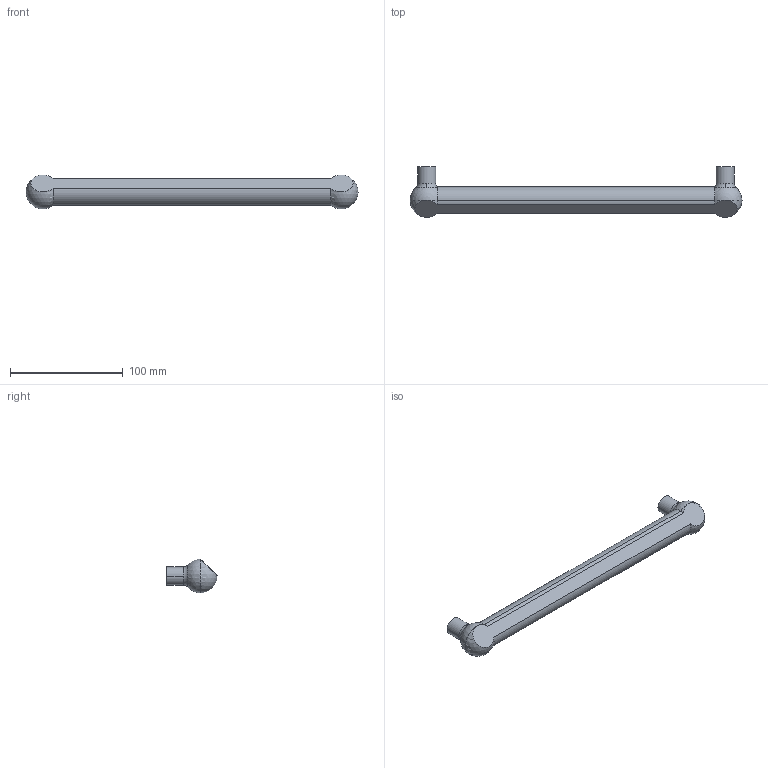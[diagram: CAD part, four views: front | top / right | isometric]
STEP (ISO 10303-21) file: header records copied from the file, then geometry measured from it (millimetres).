
FILE_DESCRIPTION( ( '' ), '1' );
FILE_NAME( 'D:/1.AUTOCAD EXPORT/Group 10/sheet_10_1/9105767.stp', '2013-10-18T08:19:07', ( '' ), ( '' ), ' ', ' ', ' ' );
FILE_SCHEMA( ( 'automotive_design' ) );
Length unit declared in the file: millimetre
Products named in the file (1): 1
Bounding box: 295 x 45 x 30 mm (x, y, z)
Volume: 139211.5 mm3; surface area: 24800.2 mm2
Topology: 1 solids, 1 shells, 26 faces, 72 edges, 40 vertices
Faces by surface type: cylinder 11, sphere 6, plane 5, torus 4
Entity records: 1548 total; most frequent: DIRECTION 162, CARTESIAN_POINT 157, STYLED_ITEM 129, PRESENTATION_STYLE_ASSIGNMENT 129, COLOUR_RGB 129, ORIENTED_EDGE 124, AXIS2_PLACEMENT_3D 75, EDGE_CURVE 62
